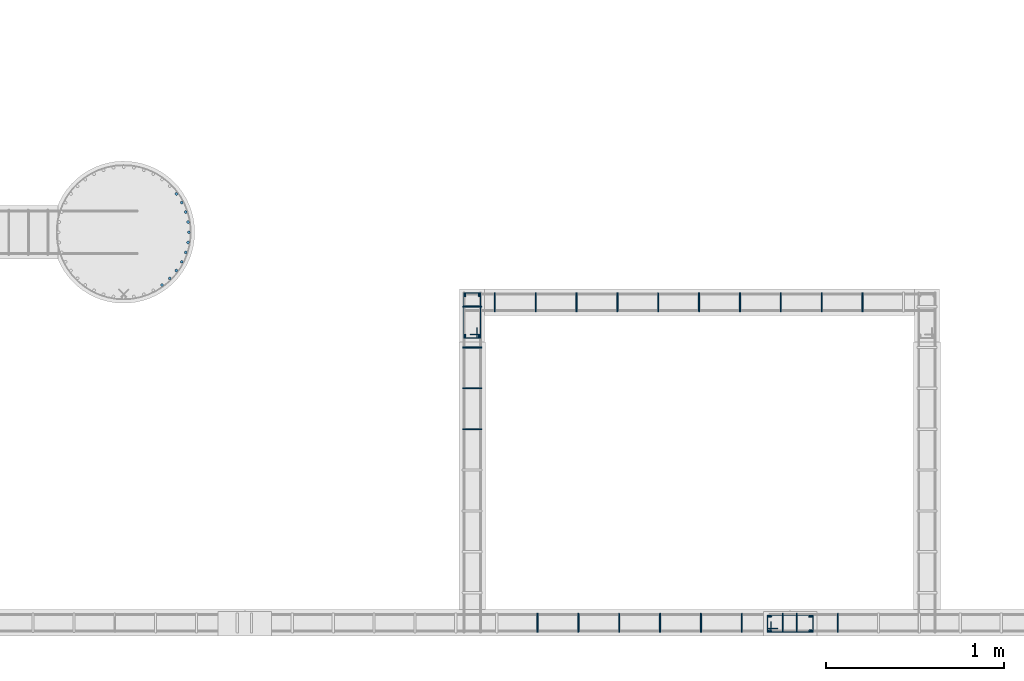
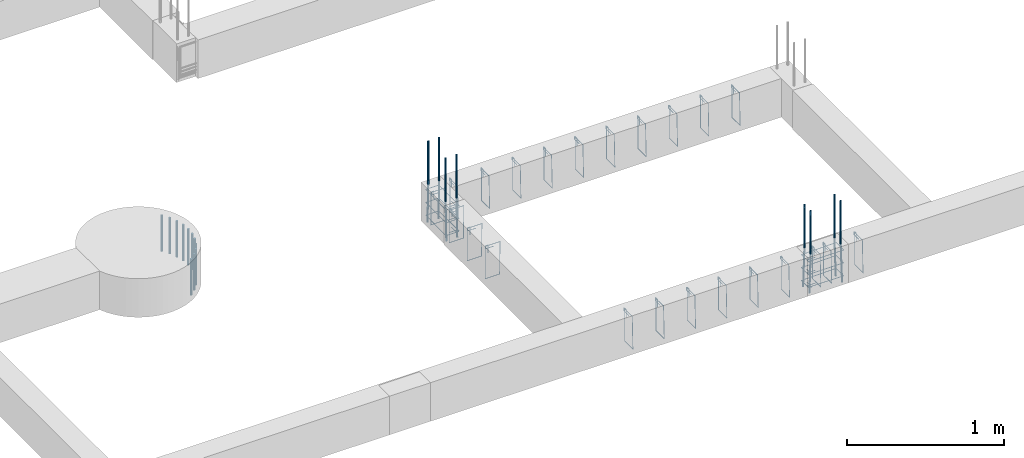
# One storey, part 41 of 150: 48 reinforcing bars.
"""IFC4 building model written with IfcOpenShell, lengths in centimetres."""

from ifc_helpers import new_model, entity, si_unit, derived_unit, frame, origin_with_axes, place, context, project, spatial, source, transform, mapped, element, save


model = new_model("IFC4")

# Units and contexts
model_context = context("Model", 3, precision=1e-05, world=origin_with_axes(), identifier="Body")
ifc_project = project(units=[si_unit("LENGTHUNIT", "METRE", prefix="CENTI"), si_unit("VOLUMEUNIT", "CUBIC_METRE"), si_unit("AREAUNIT", "SQUARE_METRE"), si_unit("POWERUNIT", "WATT"), si_unit("LUMINOUSFLUXUNIT", "LUMEN"), si_unit("ELECTRICCURRENTUNIT", "AMPERE"), si_unit("PRESSUREUNIT", "PASCAL", prefix="KILO"), si_unit("MASSUNIT", "GRAM", prefix="KILO"), si_unit("PLANEANGLEUNIT", "RADIAN"), derived_unit("VOLUMETRICFLOWRATEUNIT", [(si_unit("LENGTHUNIT", "METRE"), 3), (si_unit("TIMEUNIT", "SECOND"), -1)])], contexts=[model_context])

# Site, building, storey
site_placement = place(None, frame((-4000.0, 0.0, 0.0), z_axis=(0.0, 0.0, 1.0), x_axis=(1.0, 0.0, 0.0)))
site = spatial("IfcSite", under=ifc_project, at=site_placement, Name="PADRÃO")
building_placement = place(site_placement, frame((0.0, 0.0, -14.0)))
building = spatial("IfcBuilding", under=site, at=building_placement, Name="CRECHE PRÉ-ESCOLA TIPO 2")
placement = place(building_placement, origin_with_axes())
storey_placement = place(placement, frame((0.0, 0.0, 30.0), z_axis=(0.0, 0.0, 1.0), x_axis=(1.0, 0.0, 0.0)))
storey = spatial("IfcBuildingStorey", under=building, at=storey_placement, Name="VIGA BALDRAME", CompositionType="ELEMENT", Elevation=16.0)

# Reinforcing bars
shared_shape_1 = source(origin_with_axes(), model_context, "Body", "AdvancedSweptSolid", [
    entity("IfcSweptDiskSolid", entity("IfcCompositeCurve", [entity("IfcCompositeCurveSegment", "CONTINUOUS", True, entity("IfcPolyline", [entity("IfcCartesianPoint", [4.25, 21.75, 0.0]), entity("IfcCartesianPoint", [4.25, 27.75, 0.0])])), entity("IfcCompositeCurveSegment", "CONTINUOUS", True, entity("IfcPolyline", [entity("IfcCartesianPoint", [4.25, 27.75, 0.0]), entity("IfcCartesianPoint", [2.25, 27.75, 0.0])])), entity("IfcCompositeCurveSegment", "CONTINUOUS", True, entity("IfcPolyline", [entity("IfcCartesianPoint", [2.25, 27.75, 0.0]), entity("IfcCartesianPoint", [2.25, 2.25, 0.0])])), entity("IfcCompositeCurveSegment", "CONTINUOUS", True, entity("IfcPolyline", [entity("IfcCartesianPoint", [2.25, 2.25, 0.0]), entity("IfcCartesianPoint", [11.75, 2.25, 0.0])])), entity("IfcCompositeCurveSegment", "CONTINUOUS", True, entity("IfcPolyline", [entity("IfcCartesianPoint", [11.75, 2.25, 0.0]), entity("IfcCartesianPoint", [11.75, 27.75, -0.5])])), entity("IfcCompositeCurveSegment", "CONTINUOUS", True, entity("IfcPolyline", [entity("IfcCartesianPoint", [11.75, 27.75, -0.5]), entity("IfcCartesianPoint", [2.25, 27.75, -0.5])])), entity("IfcCompositeCurveSegment", "CONTINUOUS", True, entity("IfcPolyline", [entity("IfcCartesianPoint", [2.25, 27.75, -0.5]), entity("IfcCartesianPoint", [2.25, 25.75, -0.5])])), entity("IfcCompositeCurveSegment", "CONTINUOUS", True, entity("IfcPolyline", [entity("IfcCartesianPoint", [2.25, 25.75, -0.5]), entity("IfcCartesianPoint", [8.25, 25.75, -0.5])]))], False), 0.25),
])
for number, where, z_axis, x_axis, name in (
    (1, (2588.46, 197.5, -15.0), (0.0, 0.0, 1.0), (-1.0, 0.0, 0.0), "P152 - Estribo"),
    (2, (2588.46, 197.5, -25.0), (0.0, 0.0, 1.0), (-1.0, 0.0, 0.0), "P152 - Estribo"),
    (3, (2588.46, 197.5, -5.0), (0.0, 0.0, 1.0), (-1.0, 0.0, 0.0), "P152 - Estribo"),
):
    element("IfcReinforcingBar", number, at=place(storey_placement, frame(where, z_axis=z_axis, x_axis=x_axis)), inside=storey, Name=name, BarLength=0.0, CrossSectionArea=1.9634954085e-05, NominalDiameter=0.5, PredefinedType="MAIN", context=model_context, shape_type="MappedRepresentation", body=[
        mapped(shared_shape_1, transform((0.0, 0.0, 0.0), scale=1.0)),
    ])
shared_shape_2 = source(origin_with_axes(), model_context, "Body", "AdvancedSweptSolid", [
    entity("IfcSweptDiskSolid", entity("IfcCompositeCurve", [entity("IfcCompositeCurveSegment", "CONTINUOUS", True, entity("IfcPolyline", [entity("IfcCartesianPoint", [4.25, 21.75, 0.0]), entity("IfcCartesianPoint", [4.25, 27.75, 0.0])])), entity("IfcCompositeCurveSegment", "CONTINUOUS", True, entity("IfcPolyline", [entity("IfcCartesianPoint", [4.25, 27.75, 0.0]), entity("IfcCartesianPoint", [2.25, 27.75, 0.0])])), entity("IfcCompositeCurveSegment", "CONTINUOUS", True, entity("IfcPolyline", [entity("IfcCartesianPoint", [2.25, 27.75, 0.0]), entity("IfcCartesianPoint", [2.25, 2.25, 0.0])])), entity("IfcCompositeCurveSegment", "CONTINUOUS", True, entity("IfcPolyline", [entity("IfcCartesianPoint", [2.25, 2.25, 0.0]), entity("IfcCartesianPoint", [11.75, 2.25, 0.0])])), entity("IfcCompositeCurveSegment", "CONTINUOUS", True, entity("IfcPolyline", [entity("IfcCartesianPoint", [11.75, 2.25, 0.0]), entity("IfcCartesianPoint", [11.75, 27.75, -0.5])])), entity("IfcCompositeCurveSegment", "CONTINUOUS", True, entity("IfcPolyline", [entity("IfcCartesianPoint", [11.75, 27.75, -0.5]), entity("IfcCartesianPoint", [2.25, 27.75, -0.5])])), entity("IfcCompositeCurveSegment", "CONTINUOUS", True, entity("IfcPolyline", [entity("IfcCartesianPoint", [2.25, 27.75, -0.5]), entity("IfcCartesianPoint", [2.25, 25.75, -0.5])])), entity("IfcCompositeCurveSegment", "CONTINUOUS", True, entity("IfcPolyline", [entity("IfcCartesianPoint", [2.25, 25.75, -0.5]), entity("IfcCartesianPoint", [8.25, 25.75, -0.5])]))], False), 0.25),
])
for number, where, z_axis, x_axis, name in (
    (4, (2775.5, 2.0, -15.0), (0.0, 0.0, 1.0), (0.0, 1.0, 0.0), "P164 - Estribo"),
    (5, (2775.5, 2.0, -25.0), (0.0, 0.0, 1.0), (0.0, 1.0, 0.0), "P164 - Estribo"),
    (6, (2775.5, 2.0, -5.0), (0.0, 0.0, 1.0), (0.0, 1.0, 0.0), "P164 - Estribo"),
):
    element("IfcReinforcingBar", number, at=place(storey_placement, frame(where, z_axis=z_axis, x_axis=x_axis)), inside=storey, Name=name, BarLength=0.0, CrossSectionArea=1.9634954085e-05, NominalDiameter=0.5, PredefinedType="MAIN", context=model_context, shape_type="MappedRepresentation", body=[
        mapped(shared_shape_2, transform((0.0, 0.0, 0.0), scale=1.0)),
    ])
shared_shape_3 = source(origin_with_axes(), model_context, "Body", "AdvancedSweptSolid", [
    entity("IfcSweptDiskSolid", entity("IfcCompositeCurve", [entity("IfcCompositeCurveSegment", "CONTINUOUS", True, entity("IfcPolyline", [entity("IfcCartesianPoint", [2.0, -6.0, 0.0]), entity("IfcCartesianPoint", [2.0, 0.0, 0.0])])), entity("IfcCompositeCurveSegment", "CONTINUOUS", True, entity("IfcPolyline", [entity("IfcCartesianPoint", [2.0, 0.0, 0.0]), entity("IfcCartesianPoint", [0.0, 0.0, 0.0])])), entity("IfcCompositeCurveSegment", "CONTINUOUS", True, entity("IfcPolyline", [entity("IfcCartesianPoint", [0.0, 0.0, 0.0]), entity("IfcCartesianPoint", [0.0, -25.5, 0.0])])), entity("IfcCompositeCurveSegment", "CONTINUOUS", True, entity("IfcPolyline", [entity("IfcCartesianPoint", [0.0, -25.5, 0.0]), entity("IfcCartesianPoint", [10.5, -25.5, 0.0])])), entity("IfcCompositeCurveSegment", "CONTINUOUS", True, entity("IfcPolyline", [entity("IfcCartesianPoint", [10.5, -25.5, 0.0]), entity("IfcCartesianPoint", [10.5, 0.0, 0.5])])), entity("IfcCompositeCurveSegment", "CONTINUOUS", True, entity("IfcPolyline", [entity("IfcCartesianPoint", [10.5, 0.0, 0.5]), entity("IfcCartesianPoint", [0.0, 0.0, 0.5])])), entity("IfcCompositeCurveSegment", "CONTINUOUS", True, entity("IfcPolyline", [entity("IfcCartesianPoint", [0.0, 0.0, 0.5]), entity("IfcCartesianPoint", [0.0, -2.0, 0.5])])), entity("IfcCompositeCurveSegment", "CONTINUOUS", True, entity("IfcPolyline", [entity("IfcCartesianPoint", [0.0, -2.0, 0.5]), entity("IfcCartesianPoint", [6.0, -2.0, 0.5])]))], False), 0.25),
])
for number, where, z_axis, x_axis, name in (
    (7, (2618.5, 14.75, -2.25), (-1.0, 0.0, 0.0), (0.0, -1.0, 0.0), "V158 - Estribo"),
    (8, (2641.5, 14.75, -2.25), (-1.0, 0.0, 0.0), (0.0, -1.0, 0.0), "V158 - Estribo"),
    (9, (2664.5, 14.75, -2.25), (-1.0, 0.0, 0.0), (0.0, -1.0, 0.0), "V158 - Estribo"),
    (10, (2687.5, 14.75, -2.25), (-1.0, 0.0, 0.0), (0.0, -1.0, 0.0), "V158 - Estribo"),
    (11, (2710.5, 14.75, -2.25), (-1.0, 0.0, 0.0), (0.0, -1.0, 0.0), "V158 - Estribo"),
    (12, (2733.5, 14.75, -2.25), (-1.0, 0.0, 0.0), (0.0, -1.0, 0.0), "V158 - Estribo"),
    (13, (2756.5, 14.75, -2.25), (-1.0, 0.0, 0.0), (0.0, -1.0, 0.0), "V158 - Estribo"),
):
    element("IfcReinforcingBar", number, at=place(storey_placement, frame(where, z_axis=z_axis, x_axis=x_axis)), inside=storey, Name=name, BarLength=0.0, CrossSectionArea=1.9634954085e-05, NominalDiameter=0.5, PredefinedType="MAIN", context=model_context, shape_type="MappedRepresentation", body=[
        mapped(shared_shape_3, transform((0.0, 0.0, 0.0), scale=1.0)),
    ])
shared_shape_4 = source(origin_with_axes(), model_context, "Body", "AdvancedSweptSolid", [
    entity("IfcSweptDiskSolid", entity("IfcCompositeCurve", [entity("IfcCompositeCurveSegment", "CONTINUOUS", True, entity("IfcPolyline", [entity("IfcCartesianPoint", [2.0, -6.0, 0.0]), entity("IfcCartesianPoint", [2.0, 0.0, 0.0])])), entity("IfcCompositeCurveSegment", "CONTINUOUS", True, entity("IfcPolyline", [entity("IfcCartesianPoint", [2.0, 0.0, 0.0]), entity("IfcCartesianPoint", [0.0, 0.0, 0.0])])), entity("IfcCompositeCurveSegment", "CONTINUOUS", True, entity("IfcPolyline", [entity("IfcCartesianPoint", [0.0, 0.0, 0.0]), entity("IfcCartesianPoint", [0.0, -25.5, 0.0])])), entity("IfcCompositeCurveSegment", "CONTINUOUS", True, entity("IfcPolyline", [entity("IfcCartesianPoint", [0.0, -25.5, 0.0]), entity("IfcCartesianPoint", [10.5, -25.5, 0.0])])), entity("IfcCompositeCurveSegment", "CONTINUOUS", True, entity("IfcPolyline", [entity("IfcCartesianPoint", [10.5, -25.5, 0.0]), entity("IfcCartesianPoint", [10.5, 0.0, 0.5])])), entity("IfcCompositeCurveSegment", "CONTINUOUS", True, entity("IfcPolyline", [entity("IfcCartesianPoint", [10.5, 0.0, 0.5]), entity("IfcCartesianPoint", [0.0, 0.0, 0.5])])), entity("IfcCompositeCurveSegment", "CONTINUOUS", True, entity("IfcPolyline", [entity("IfcCartesianPoint", [0.0, 0.0, 0.5]), entity("IfcCartesianPoint", [0.0, -2.0, 0.5])])), entity("IfcCompositeCurveSegment", "CONTINUOUS", True, entity("IfcPolyline", [entity("IfcCartesianPoint", [0.0, -2.0, 0.5]), entity("IfcCartesianPoint", [6.0, -2.0, 0.5])]))], False), 0.25),
])
for number, where, z_axis, x_axis, name in (
    (14, (2764.5, 14.75, -2.25), (-1.0, 0.0, 0.0), (0.0, -1.0, 0.0), "V158 - Estribo"),
    (15, (2787.5, 14.75, -2.25), (-1.0, 0.0, 0.0), (0.0, -1.0, 0.0), "V158 - Estribo"),
):
    element("IfcReinforcingBar", number, at=place(storey_placement, frame(where, z_axis=z_axis, x_axis=x_axis)), inside=storey, Name=name, BarLength=0.0, CrossSectionArea=1.9634954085e-05, NominalDiameter=0.5, PredefinedType="MAIN", context=model_context, shape_type="MappedRepresentation", body=[
        mapped(shared_shape_4, transform((0.0, 0.0, 0.0), scale=1.0)),
    ])
shared_shape_5 = source(origin_with_axes(), model_context, "Body", "AdvancedSweptSolid", [
    entity("IfcSweptDiskSolid", entity("IfcCompositeCurve", [entity("IfcCompositeCurveSegment", "CONTINUOUS", True, entity("IfcPolyline", [entity("IfcCartesianPoint", [2.0, -6.0, 0.0]), entity("IfcCartesianPoint", [2.0, 0.0, 0.0])])), entity("IfcCompositeCurveSegment", "CONTINUOUS", True, entity("IfcPolyline", [entity("IfcCartesianPoint", [2.0, 0.0, 0.0]), entity("IfcCartesianPoint", [0.0, 0.0, 0.0])])), entity("IfcCompositeCurveSegment", "CONTINUOUS", True, entity("IfcPolyline", [entity("IfcCartesianPoint", [0.0, 0.0, 0.0]), entity("IfcCartesianPoint", [0.0, -25.5, 0.0])])), entity("IfcCompositeCurveSegment", "CONTINUOUS", True, entity("IfcPolyline", [entity("IfcCartesianPoint", [0.0, -25.5, 0.0]), entity("IfcCartesianPoint", [10.5, -25.5, 0.0])])), entity("IfcCompositeCurveSegment", "CONTINUOUS", True, entity("IfcPolyline", [entity("IfcCartesianPoint", [10.5, -25.5, 0.0]), entity("IfcCartesianPoint", [10.5, 0.0, 0.5])])), entity("IfcCompositeCurveSegment", "CONTINUOUS", True, entity("IfcPolyline", [entity("IfcCartesianPoint", [10.5, 0.0, 0.5]), entity("IfcCartesianPoint", [0.0, 0.0, 0.5])])), entity("IfcCompositeCurveSegment", "CONTINUOUS", True, entity("IfcPolyline", [entity("IfcCartesianPoint", [0.0, 0.0, 0.5]), entity("IfcCartesianPoint", [0.0, -2.0, 0.5])])), entity("IfcCompositeCurveSegment", "CONTINUOUS", True, entity("IfcPolyline", [entity("IfcCartesianPoint", [0.0, -2.0, 0.5]), entity("IfcCartesianPoint", [6.0, -2.0, 0.5])]))], False), 0.25),
])
for number, where, z_axis, x_axis, name in (
    (16, (2576.21, 141.75, -2.25), (0.0, -1.0, 0.0), (1.0, 0.0, 0.0), "V201 - Estribo"),
    (17, (2576.21, 164.75, -2.25), (0.0, -1.0, 0.0), (1.0, 0.0, 0.0), "V201 - Estribo"),
    (18, (2576.21, 187.75, -2.25), (0.0, -1.0, 0.0), (1.0, 0.0, 0.0), "V201 - Estribo"),
    (19, (2576.21, 118.75, -2.25), (0.0, -1.0, 0.0), (1.0, 0.0, 0.0), "V201 - Estribo"),
):
    element("IfcReinforcingBar", number, at=place(storey_placement, frame(where, z_axis=z_axis, x_axis=x_axis)), inside=storey, Name=name, BarLength=0.0, CrossSectionArea=1.9634954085e-05, NominalDiameter=0.5, PredefinedType="MAIN", context=model_context, shape_type="MappedRepresentation", body=[
        mapped(shared_shape_5, transform((0.0, 0.0, 0.0), scale=1.0)),
    ])
shared_shape_6 = source(origin_with_axes(), model_context, "Body", "AdvancedSweptSolid", [
    entity("IfcSweptDiskSolid", entity("IfcCompositeCurve", [entity("IfcCompositeCurveSegment", "CONTINUOUS", True, entity("IfcPolyline", [entity("IfcCartesianPoint", [2.0, -6.0, 0.0]), entity("IfcCartesianPoint", [2.0, 0.0, 0.0])])), entity("IfcCompositeCurveSegment", "CONTINUOUS", True, entity("IfcPolyline", [entity("IfcCartesianPoint", [2.0, 0.0, 0.0]), entity("IfcCartesianPoint", [0.0, 0.0, 0.0])])), entity("IfcCompositeCurveSegment", "CONTINUOUS", True, entity("IfcPolyline", [entity("IfcCartesianPoint", [0.0, 0.0, 0.0]), entity("IfcCartesianPoint", [0.0, -25.5, 0.0])])), entity("IfcCompositeCurveSegment", "CONTINUOUS", True, entity("IfcPolyline", [entity("IfcCartesianPoint", [0.0, -25.5, 0.0]), entity("IfcCartesianPoint", [10.5, -25.5, 0.0])])), entity("IfcCompositeCurveSegment", "CONTINUOUS", True, entity("IfcPolyline", [entity("IfcCartesianPoint", [10.5, -25.5, 0.0]), entity("IfcCartesianPoint", [10.5, 0.0, 0.5])])), entity("IfcCompositeCurveSegment", "CONTINUOUS", True, entity("IfcPolyline", [entity("IfcCartesianPoint", [10.5, 0.0, 0.5]), entity("IfcCartesianPoint", [0.0, 0.0, 0.5])])), entity("IfcCompositeCurveSegment", "CONTINUOUS", True, entity("IfcPolyline", [entity("IfcCartesianPoint", [0.0, 0.0, 0.5]), entity("IfcCartesianPoint", [0.0, -2.0, 0.5])])), entity("IfcCompositeCurveSegment", "CONTINUOUS", True, entity("IfcPolyline", [entity("IfcCartesianPoint", [0.0, -2.0, 0.5]), entity("IfcCartesianPoint", [6.0, -2.0, 0.5])]))], False), 0.25),
])
for number, where, z_axis, x_axis, name in (
    (20, (2594.475, 195.25, -2.25), (-1.0, 0.0, 0.0), (0.0, -1.0, 0.0), "V157 - Estribo"),
    (21, (2617.475, 195.25, -2.25), (-1.0, 0.0, 0.0), (0.0, -1.0, 0.0), "V157 - Estribo"),
    (22, (2640.475, 195.25, -2.25), (-1.0, 0.0, 0.0), (0.0, -1.0, 0.0), "V157 - Estribo"),
    (23, (2663.475, 195.25, -2.25), (-1.0, 0.0, 0.0), (0.0, -1.0, 0.0), "V157 - Estribo"),
    (24, (2686.475, 195.25, -2.25), (-1.0, 0.0, 0.0), (0.0, -1.0, 0.0), "V157 - Estribo"),
    (25, (2709.475, 195.25, -2.25), (-1.0, 0.0, 0.0), (0.0, -1.0, 0.0), "V157 - Estribo"),
    (26, (2732.475, 195.25, -2.25), (-1.0, 0.0, 0.0), (0.0, -1.0, 0.0), "V157 - Estribo"),
    (27, (2755.475, 195.25, -2.25), (-1.0, 0.0, 0.0), (0.0, -1.0, 0.0), "V157 - Estribo"),
    (28, (2778.475, 195.25, -2.25), (-1.0, 0.0, 0.0), (0.0, -1.0, 0.0), "V157 - Estribo"),
    (29, (2801.475, 195.25, -2.25), (-1.0, 0.0, 0.0), (0.0, -1.0, 0.0), "V157 - Estribo"),
):
    element("IfcReinforcingBar", number, at=place(storey_placement, frame(where, z_axis=z_axis, x_axis=x_axis)), inside=storey, Name=name, BarLength=0.0, CrossSectionArea=1.9634954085e-05, NominalDiameter=0.5, PredefinedType="MAIN", context=model_context, shape_type="MappedRepresentation", body=[
        mapped(shared_shape_6, transform((0.0, 0.0, 0.0), scale=1.0)),
    ])
for number, where, z_axis, x_axis, name in (
    (30, (2411.23081886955, 203.439181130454, -2.0), (0.0, 0.0, 1.0), (1.0, 0.0, 0.0), "P151 - Longitudinal"),
    (31, (2406.85171875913, 199.699076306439, -2.0), (0.0, 0.0, 1.0), (1.0, 0.0, 0.0), "P151 - Longitudinal"),
    (32, (2414.97092369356, 207.818281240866, -2.0), (0.0, 0.0, 1.0), (1.0, 0.0, 0.0), "P151 - Longitudinal"),
    (33, (2417.97993943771, 212.728548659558, -2.0), (0.0, 0.0, 1.0), (1.0, 0.0, 0.0), "P151 - Longitudinal"),
    (34, (2420.18377414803, 218.04907630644, -2.0), (0.0, 0.0, 1.0), (1.0, 0.0, 0.0), "P151 - Longitudinal"),
    (35, (2421.52816209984, 223.648855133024, -2.0), (0.0, 0.0, 1.0), (1.0, 0.0, 0.0), "P151 - Longitudinal"),
    (36, (2421.98, 229.39, -2.0), (0.0, 0.0, 1.0), (1.0, 0.0, 0.0), "P151 - Longitudinal"),
    (37, (2421.52816209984, 235.131144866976, -2.0), (0.0, 0.0, 1.0), (1.0, 0.0, 0.0), "P151 - Longitudinal"),
    (38, (2420.18377414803, 240.73092369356, -2.0), (0.0, 0.0, 1.0), (1.0, 0.0, 0.0), "P151 - Longitudinal"),
    (39, (2417.97993943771, 246.051451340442, -2.0), (0.0, 0.0, 1.0), (1.0, 0.0, 0.0), "P151 - Longitudinal"),
    (40, (2414.97092369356, 250.961718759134, -2.0), (0.0, 0.0, 1.0), (1.0, 0.0, 0.0), "P151 - Longitudinal"),
):
    element("IfcReinforcingBar", number, at=place(storey_placement, frame(where, z_axis=z_axis, x_axis=x_axis)), inside=storey, Name=name, BarLength=0.0, CrossSectionArea=0.00020106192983, NominalDiameter=1.6, PredefinedType="MAIN", context=model_context, shape_type="AdvancedSweptSolid", body=[
        entity("IfcSweptDiskSolid", entity("IfcCompositeCurve", [entity("IfcCompositeCurveSegment", "CONTINUOUS", True, entity("IfcPolyline", [entity("IfcCartesianPoint", [0.0, 0.0, -28.0]), entity("IfcCartesianPoint", [0.0, 0.0, 0.0])]))], False), 0.8),
    ])
for number, where, z_axis, x_axis, name in (
    (41, (2577.46, 171.000138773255, 33.3573001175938), (0.0, 0.0, 1.0), (1.0, 0.0, 0.0), "P152 - Longitudinal"),
    (42, (2585.46, 171.000138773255, 33.3573001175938), (0.0, 0.0, 1.0), (1.0, 0.0, 0.0), "P152 - Longitudinal"),
):
    element("IfcReinforcingBar", number, at=place(storey_placement, frame(where, z_axis=z_axis, x_axis=x_axis)), inside=storey, Name=name, BarLength=0.0, CrossSectionArea=7.853981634e-05, NominalDiameter=1.0, PredefinedType="MAIN", context=model_context, shape_type="AdvancedSweptSolid", body=[
        entity("IfcSweptDiskSolid", entity("IfcCompositeCurve", [entity("IfcCompositeCurveSegment", "CONTINUOUS", True, entity("IfcPolyline", [entity("IfcCartesianPoint", [0.0, -0.50013877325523, -63.3573001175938]), entity("IfcCartesianPoint", [0.0, 0.49986122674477, -33.3573001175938])])), entity("IfcCompositeCurveSegment", "CONTINUOUS", True, entity("IfcPolyline", [entity("IfcCartesianPoint", [0.0, 0.49986122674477, -33.3573001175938]), entity("IfcCartesianPoint", [0.0, 0.49986122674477, 0.0])]))], False), 0.5),
    ])
for number, where, z_axis, x_axis, name in (
    (43, (2585.46, 193.999861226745, 33.3573001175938), (0.0, 0.0, 1.0), (1.0, 0.0, 0.0), "P152 - Longitudinal"),
    (44, (2577.46, 193.999861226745, 33.3573001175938), (0.0, 0.0, 1.0), (1.0, 0.0, 0.0), "P152 - Longitudinal"),
):
    element("IfcReinforcingBar", number, at=place(storey_placement, frame(where, z_axis=z_axis, x_axis=x_axis)), inside=storey, Name=name, BarLength=0.0, CrossSectionArea=7.853981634e-05, NominalDiameter=1.0, PredefinedType="MAIN", context=model_context, shape_type="AdvancedSweptSolid", body=[
        entity("IfcSweptDiskSolid", entity("IfcCompositeCurve", [entity("IfcCompositeCurveSegment", "CONTINUOUS", True, entity("IfcPolyline", [entity("IfcCartesianPoint", [0.0, 0.50013877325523, -63.3573001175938]), entity("IfcCartesianPoint", [0.0, -0.49986122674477, -33.3573001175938])])), entity("IfcCompositeCurveSegment", "CONTINUOUS", True, entity("IfcPolyline", [entity("IfcCartesianPoint", [0.0, -0.49986122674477, -33.3573001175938]), entity("IfcCartesianPoint", [0.0, -0.49986122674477, 0.0])]))], False), 0.5),
    ])
reinforcing_bar_1_placement = place(storey_placement, frame((2749.00013877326, 13.0, 33.3573001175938), z_axis=(0.0, 0.0, 1.0), x_axis=(1.0, 0.0, 0.0)))
element("IfcReinforcingBar", 45, at=reinforcing_bar_1_placement, inside=storey, Name="P164 - Longitudinal", BarLength=0.0, CrossSectionArea=7.853981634e-05, NominalDiameter=1.0, PredefinedType="MAIN", context=model_context, shape_type="AdvancedSweptSolid", body=[
    entity("IfcSweptDiskSolid", entity("IfcCompositeCurve", [entity("IfcCompositeCurveSegment", "CONTINUOUS", True, entity("IfcPolyline", [entity("IfcCartesianPoint", [-0.500138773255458, 0.0, -63.3573001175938]), entity("IfcCartesianPoint", [0.499861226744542, 0.0, -33.3573001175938])])), entity("IfcCompositeCurveSegment", "CONTINUOUS", True, entity("IfcPolyline", [entity("IfcCartesianPoint", [0.499861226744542, 0.0, -33.3573001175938]), entity("IfcCartesianPoint", [0.499861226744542, 0.0, 0.0])]))], False), 0.5),
])
for number, where, z_axis, x_axis, name in (
    (46, (2771.99986122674, 5.0, 33.3573001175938), (0.0, 0.0, 1.0), (1.0, 0.0, 0.0), "P164 - Longitudinal"),
    (47, (2771.99986122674, 13.0, 33.3573001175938), (0.0, 0.0, 1.0), (1.0, 0.0, 0.0), "P164 - Longitudinal"),
):
    element("IfcReinforcingBar", number, at=place(storey_placement, frame(where, z_axis=z_axis, x_axis=x_axis)), inside=storey, Name=name, BarLength=0.0, CrossSectionArea=7.853981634e-05, NominalDiameter=1.0, PredefinedType="MAIN", context=model_context, shape_type="AdvancedSweptSolid", body=[
        entity("IfcSweptDiskSolid", entity("IfcCompositeCurve", [entity("IfcCompositeCurveSegment", "CONTINUOUS", True, entity("IfcPolyline", [entity("IfcCartesianPoint", [0.500138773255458, 0.0, -63.3573001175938]), entity("IfcCartesianPoint", [-0.499861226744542, 0.0, -33.3573001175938])])), entity("IfcCompositeCurveSegment", "CONTINUOUS", True, entity("IfcPolyline", [entity("IfcCartesianPoint", [-0.499861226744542, 0.0, -33.3573001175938]), entity("IfcCartesianPoint", [-0.499861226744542, 0.0, 0.0])]))], False), 0.5),
    ])
reinforcing_bar_2_placement = place(storey_placement, frame((2749.00013877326, 5.0, 33.3573001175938), z_axis=(0.0, 0.0, 1.0), x_axis=(1.0, 0.0, 0.0)))
element("IfcReinforcingBar", 48, at=reinforcing_bar_2_placement, inside=storey, Name="P164 - Longitudinal", BarLength=0.0, CrossSectionArea=7.853981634e-05, NominalDiameter=1.0, PredefinedType="MAIN", context=model_context, shape_type="AdvancedSweptSolid", body=[
    entity("IfcSweptDiskSolid", entity("IfcCompositeCurve", [entity("IfcCompositeCurveSegment", "CONTINUOUS", True, entity("IfcPolyline", [entity("IfcCartesianPoint", [-0.500138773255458, 0.0, -63.3573001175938]), entity("IfcCartesianPoint", [0.499861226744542, 0.0, -33.3573001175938])])), entity("IfcCompositeCurveSegment", "CONTINUOUS", True, entity("IfcPolyline", [entity("IfcCartesianPoint", [0.499861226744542, 0.0, -33.3573001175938]), entity("IfcCartesianPoint", [0.499861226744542, 0.0, 0.0])]))], False), 0.5),
])

save(model, "model.ifc")
